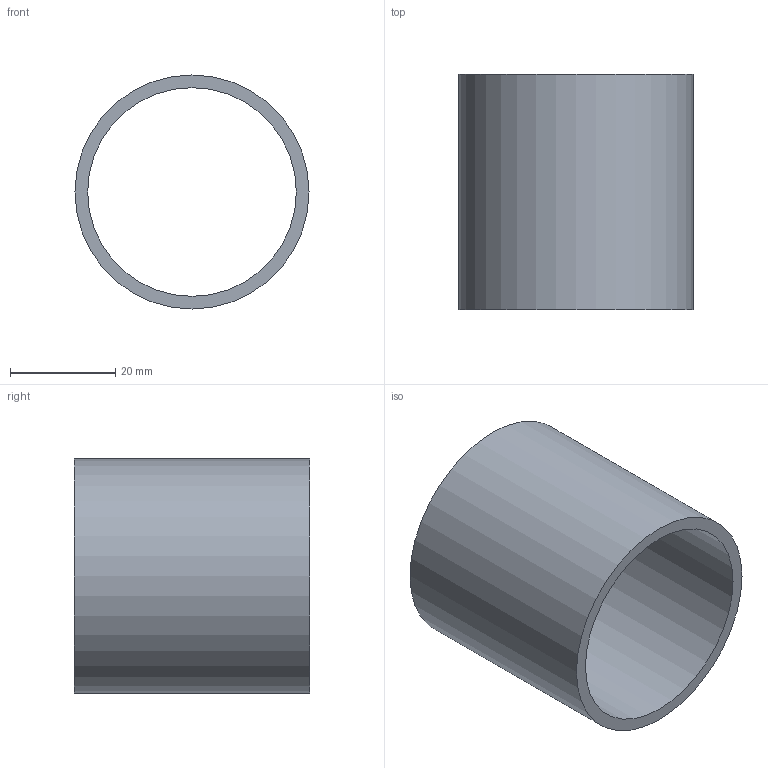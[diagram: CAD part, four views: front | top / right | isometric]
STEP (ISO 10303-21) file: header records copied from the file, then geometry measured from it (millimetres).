
FILE_DESCRIPTION(/* description */ (''),/* implementation_level */ '2;1');
FILE_NAME(/* name */ 'CF-RND-175-095_METRIC.step',/* time_stamp */ '2025-07-21T13:38:37-07:00',/* author */ (''),/* organization */ (''),/* preprocessor_version */ 'ST-DEVELOPER v20.1',/* originating_system */ 'Autodesk Translation Framework v14.10.0.0',/* authorisation */ '');
FILE_SCHEMA (('AUTOMOTIVE_DESIGN { 1 0 10303 214 3 1 1 }'));
Length unit declared in the file: millimetre
Products named in the file (1): CR-RND-175-095
Bounding box: 44.45 x 44.7 x 44.45 mm (x, y, z)
Volume: 14245.7 mm3; surface area: 12444.8 mm2
Topology: 1 solids, 1 shells, 4 faces, 6 edges, 4 vertices
Faces by surface type: cylinder 2, plane 2
Full cylindrical faces by diameter (mm): 39.624 x1, 44.45 x1
Entity records: 138 total; most frequent: DIRECTION 20, CARTESIAN_POINT 15, ORIENTED_EDGE 12, AXIS2_PLACEMENT_3D 9, EDGE_LOOP 6, EDGE_CURVE 6, FACE_OUTER_BOUND 4, CIRCLE 4
